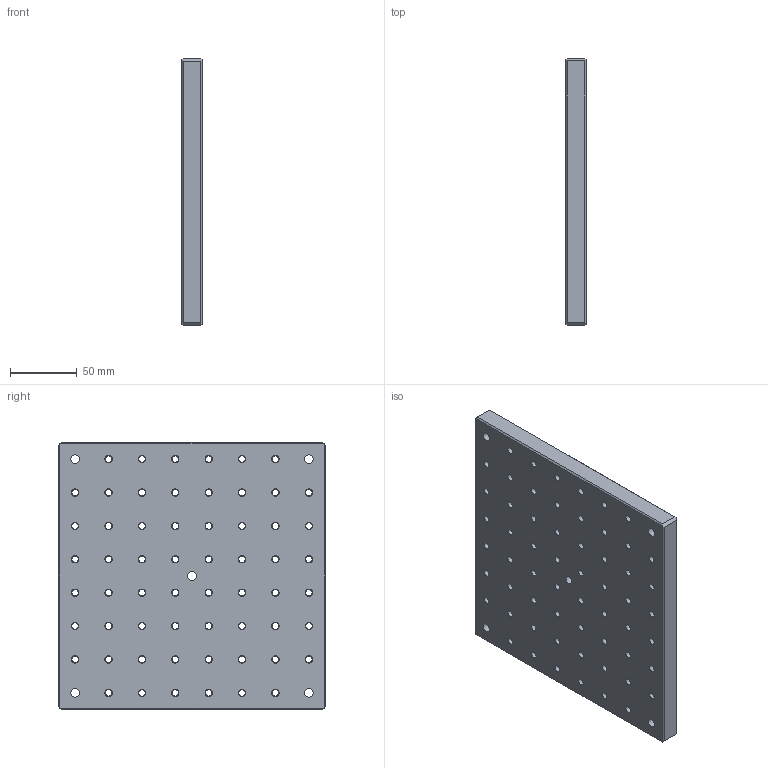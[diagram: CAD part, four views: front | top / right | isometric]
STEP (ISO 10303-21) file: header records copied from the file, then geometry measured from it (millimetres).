
FILE_DESCRIPTION(/* description */ (''),/* implementation_level */ '2;1');
FILE_NAME(/* name */ 'U:\KONSTRUKTORIAI\DOKUMENTACIJA\1\1B-ALE\1B-ALE-20-20-015\step\1B-ALE-20-20-015.stp',/* time_stamp */ '2016-06-15T08:01:18+03:00',/* author */ ('dsgn31'),/* organization */ (''),/* preprocessor_version */ 'ST-DEVELOPER v15.2',/* originating_system */ 'Autodesk Inventor 2014',/* authorisation */ '');
FILE_SCHEMA (('AUTOMOTIVE_DESIGN { 1 0 10303 214 3 1 1 }'));
Length unit declared in the file: millimetre
Products named in the file (1): 1B-ALE-20-20-015.01
Bounding box: 15 x 200 x 200 mm (x, y, z)
Volume: 576954.2 mm3; surface area: 104064.5 mm2
Topology: 1 solids, 1 shells, 213 faces, 550 edges, 344 vertices
Faces by surface type: cone 120, cylinder 70, plane 23
Full cylindrical faces by diameter (mm): 4.917 x60, 6.5 x5, 11 x5
Entity records: 5311 total; most frequent: DIRECTION 988, CARTESIAN_POINT 798, ORIENTED_EDGE 600, EDGE_LOOP 538, AXIS2_PLACEMENT_3D 474, FACE_BOUND 327, EDGE_CURVE 300, VERTEX_POINT 284
